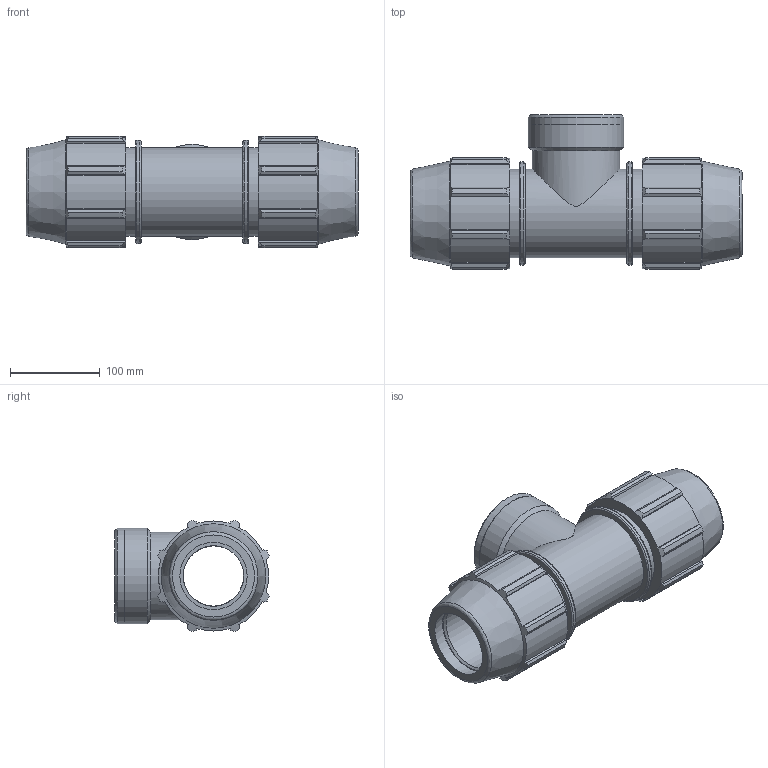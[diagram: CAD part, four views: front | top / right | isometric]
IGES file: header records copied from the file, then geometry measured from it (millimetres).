
Global section: file name: 871400075030_181400075030.ipt; native system: Autodesk Inventor 2015; preprocessor: unknown; author: KIM; date: 20170608.042553; units: millimetre
Bounding box: 370 x 172.1 x 124.2 mm (x, y, z)
Volume: 2214672.4 mm3; surface area: 286790.2 mm2
Topology: 1 solids, 1 shells, 157 faces, 443 edges, 299 vertices
Faces by surface type: plane 79, cylinder 40, cone 23, revolution 15
Full cylindrical faces by diameter (mm): 97.665 x1, 99 x3, 106.157 x2, 114.84 x2
